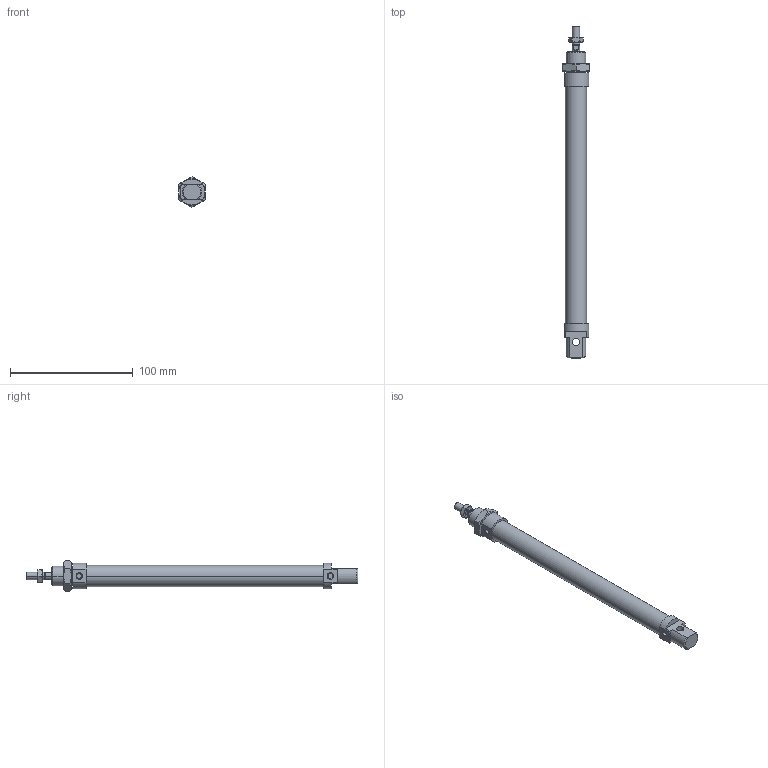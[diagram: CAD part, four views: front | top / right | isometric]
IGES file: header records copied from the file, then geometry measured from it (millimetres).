
Global section: file name: No Iges File Name specified; native system: Autodesk Inventor 2010; preprocessor: AutoDesk Inventor Iges Exporter R2010; author: rivolro1; date: 20090604.093230; units: millimetre
Bounding box: 22 x 271 x 25.4 mm (x, y, z)
Volume: 60037.2 mm3; surface area: 23724.3 mm2
Topology: 4 solids, 4 shells, 107 faces, 236 edges, 144 vertices
Faces by surface type: plane 39, cone 28, bspline 20, cylinder 14, revolution 6
